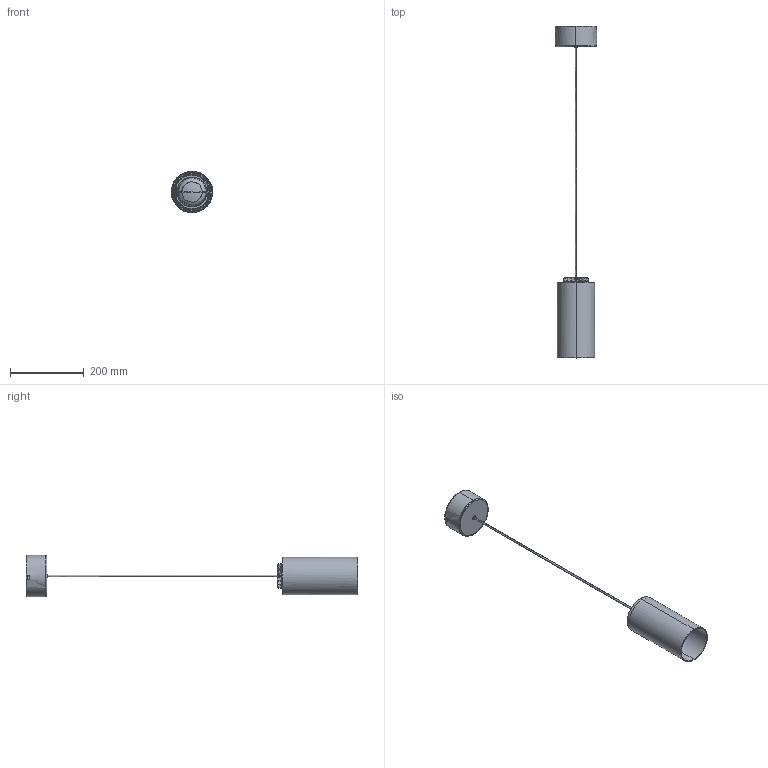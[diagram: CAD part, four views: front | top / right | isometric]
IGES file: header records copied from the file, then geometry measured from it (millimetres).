
Start section: SolidWorks IGES file using NURBS representation for surfaces
Global section: file name: C:\Users\aitor.torredeflot\Desktop\Cirio Simple - 3D\Cirio Simple.IGS; native system: SolidWorks 2016; preprocessor: SolidWorks 2016; author: aitor.torredeflot; date: 170912.104257; units: millimetre
Bounding box: 112 x 898 x 112 mm (x, y, z)
Surface area: 237839.5 mm2 (no closed solid volume)
Topology: 0 solids, 0 shells, 345 faces, 2990 edges, 2988 vertices
Faces by surface type: bspline 345
